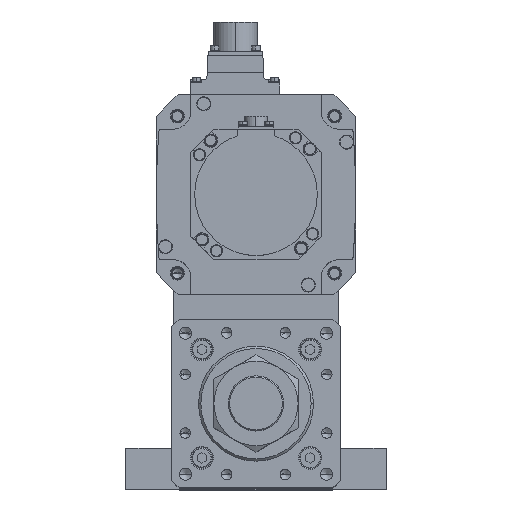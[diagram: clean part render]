
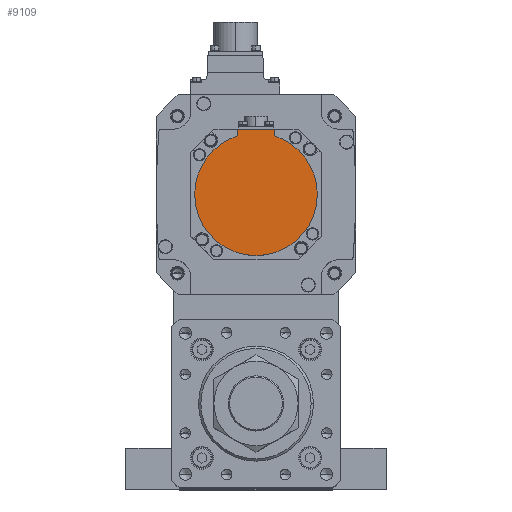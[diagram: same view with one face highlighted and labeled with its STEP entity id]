
A CAD part, top view. The second image highlights one B-rep face of the part: STEP entity #9109.
In plain terms, the highlighted planar face has unit normal (0, 0, 1) as drawn and (0, 0, -1) by its records, which use the part's own axes.
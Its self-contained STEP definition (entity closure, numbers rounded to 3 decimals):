
#89 = VERTEX_POINT ( 'NONE', #15333 ) ;
#2049 = CARTESIAN_POINT ( 'NONE',  ( 0., -42.5, -132.5 ) ) ;
#2411 = CARTESIAN_POINT ( 'NONE',  ( -12., -40.329, -132.5 ) ) ;
#2504 = CARTESIAN_POINT ( 'NONE',  ( -12., -42.5, -132.5 ) ) ;
#2554 = DIRECTION ( 'NONE',  ( 0., 0., 1. ) ) ;
#2676 = LINE ( 'NONE', #24761, #17633 ) ;
#2699 = CARTESIAN_POINT ( 'NONE',  ( -40., 0., -132.5 ) ) ;
#3630 = CIRCLE ( 'NONE', #33700, 40. ) ;
#4966 = CARTESIAN_POINT ( 'NONE',  ( 12., -42.5, -132.5 ) ) ;
#5211 = DIRECTION ( 'NONE',  ( 0., 1., 0. ) ) ;
#5244 = ORIENTED_EDGE ( 'NONE', *, *, #25714, .F. ) ;
#5572 = CIRCLE ( 'NONE', #23191, 40. ) ;
#5581 = CIRCLE ( 'NONE', #25695, 40. ) ;
#6691 = FACE_OUTER_BOUND ( 'NONE', #15136, .T. ) ;
#6765 = EDGE_CURVE ( 'NONE', #89, #29145, #5572, .T. ) ;
#6885 = ORIENTED_EDGE ( 'NONE', *, *, #19554, .F. ) ;
#6923 = VERTEX_POINT ( 'NONE', #4966 ) ;
#7137 = CARTESIAN_POINT ( 'NONE',  ( 0., 0., -132.5 ) ) ;
#8556 = PLANE ( 'NONE',  #29651 ) ;
#8579 = ORIENTED_EDGE ( 'NONE', *, *, #28094, .T. ) ;
#9024 = CARTESIAN_POINT ( 'NONE',  ( -12., -38.158, -132.5 ) ) ;
#9109 = ADVANCED_FACE ( 'NONE', ( #6691 ), #8556, .F. ) ;
#9542 = ORIENTED_EDGE ( 'NONE', *, *, #12900, .F. ) ;
#10429 = DIRECTION ( 'NONE',  ( 0., 1., 0. ) ) ;
#10446 = VERTEX_POINT ( 'NONE', #9024 ) ;
#11778 = CARTESIAN_POINT ( 'NONE',  ( 0., 0., -132.5 ) ) ;
#12222 = ORIENTED_EDGE ( 'NONE', *, *, #19192, .T. ) ;
#12433 = DIRECTION ( 'NONE',  ( 1., 0., 0. ) ) ;
#12900 = EDGE_CURVE ( 'NONE', #29145, #28916, #3630, .T. ) ;
#13658 = LINE ( 'NONE', #2049, #21312 ) ;
#15136 = EDGE_LOOP ( 'NONE', ( #12222, #6885, #9542, #18007, #5244, #8579 ) ) ;
#15333 = CARTESIAN_POINT ( 'NONE',  ( 12., -38.158, -132.5 ) ) ;
#17138 = CARTESIAN_POINT ( 'NONE',  ( 0., -1.249, -132.5 ) ) ;
#17633 = VECTOR ( 'NONE', #5211, 1000. ) ;
#18007 = ORIENTED_EDGE ( 'NONE', *, *, #6765, .F. ) ;
#18945 = CARTESIAN_POINT ( 'NONE',  ( 0., 0., -132.5 ) ) ;
#19192 = EDGE_CURVE ( 'NONE', #28199, #10446, #21047, .T. ) ;
#19530 = DIRECTION ( 'NONE',  ( 0., 0., 1. ) ) ;
#19554 = EDGE_CURVE ( 'NONE', #28916, #10446, #5581, .T. ) ;
#21047 = LINE ( 'NONE', #2411, #34765 ) ;
#21312 = VECTOR ( 'NONE', #26392, 1000. ) ;
#23191 = AXIS2_PLACEMENT_3D ( 'NONE', #7137, #26327, #12433 ) ;
#23404 = CARTESIAN_POINT ( 'NONE',  ( 40., 0., -132.5 ) ) ;
#24761 = CARTESIAN_POINT ( 'NONE',  ( 12., -1.249, -132.5 ) ) ;
#25695 = AXIS2_PLACEMENT_3D ( 'NONE', #11778, #19530, #33199 ) ;
#25714 = EDGE_CURVE ( 'NONE', #6923, #89, #2676, .T. ) ;
#26327 = DIRECTION ( 'NONE',  ( 0., 0., 1. ) ) ;
#26392 = DIRECTION ( 'NONE',  ( -1., 0., 0. ) ) ;
#27613 = DIRECTION ( 'NONE',  ( 0., 0., 1. ) ) ;
#27722 = DIRECTION ( 'NONE',  ( 1., 0., 0. ) ) ;
#28094 = EDGE_CURVE ( 'NONE', #6923, #28199, #13658, .T. ) ;
#28199 = VERTEX_POINT ( 'NONE', #2504 ) ;
#28916 = VERTEX_POINT ( 'NONE', #2699 ) ;
#29145 = VERTEX_POINT ( 'NONE', #23404 ) ;
#29651 = AXIS2_PLACEMENT_3D ( 'NONE', #17138, #27613, #27722 ) ;
#29972 = DIRECTION ( 'NONE',  ( 1., 0., 0. ) ) ;
#33199 = DIRECTION ( 'NONE',  ( 1., 0., 0. ) ) ;
#33700 = AXIS2_PLACEMENT_3D ( 'NONE', #18945, #2554, #29972 ) ;
#34765 = VECTOR ( 'NONE', #10429, 1000. ) ;
